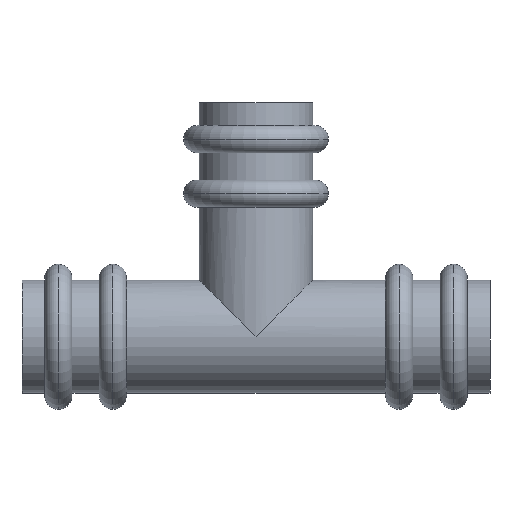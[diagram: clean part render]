
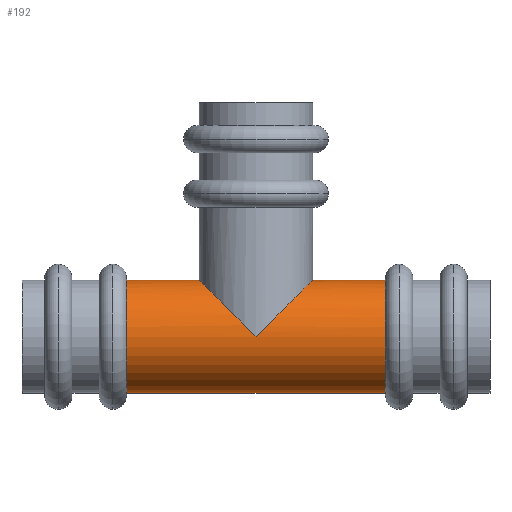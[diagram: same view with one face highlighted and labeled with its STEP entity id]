
A CAD part, front view. The second image highlights one B-rep face of the part: STEP entity #192.
In plain terms, the highlighted cylindrical face has radius 12.45 mm (diameter 24.9 mm), a partial arc.
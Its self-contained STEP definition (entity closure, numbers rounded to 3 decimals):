
#192=ADVANCED_FACE('',(#472),#473,.T.);
#472=FACE_OUTER_BOUND('',#864,.T.);
#473=CYLINDRICAL_SURFACE('',#865,12.45);
#864=EDGE_LOOP('',(#1370,#1371,#1372,#1373,#1374,#1375,#1376));
#865=AXIS2_PLACEMENT_3D('',#1377,#1378,#1379);
#1370=ORIENTED_EDGE('',*,*,#2243,.F.);
#1371=ORIENTED_EDGE('',*,*,#2244,.F.);
#1372=ORIENTED_EDGE('',*,*,#2245,.F.);
#1373=ORIENTED_EDGE('',*,*,#2246,.T.);
#1374=ORIENTED_EDGE('',*,*,#2247,.T.);
#1375=ORIENTED_EDGE('',*,*,#2248,.F.);
#1376=ORIENTED_EDGE('',*,*,#2249,.F.);
#1377=CARTESIAN_POINT('',(43.,0.0,0.));
#1378=DIRECTION('',(-1.0,0.0,0.0));
#1379=DIRECTION('',(0.0,0.0,-1.0));
#2243=EDGE_CURVE('',#2657,#2658,#2659,.T.);
#2244=EDGE_CURVE('',#2660,#2657,#2661,.T.);
#2245=EDGE_CURVE('',#2662,#2660,#2663,.T.);
#2246=EDGE_CURVE('',#2662,#2664,#2665,.T.);
#2247=EDGE_CURVE('',#2664,#2666,#2667,.T.);
#2248=EDGE_CURVE('',#2668,#2666,#2669,.T.);
#2249=EDGE_CURVE('',#2658,#2668,#2670,.T.);
#2657=VERTEX_POINT('',#3175);
#2658=VERTEX_POINT('',#3176);
#2659=LINE('',#3177,#3178);
#2660=VERTEX_POINT('',#3179);
#2661=CIRCLE('',#3180,12.45);
#2662=VERTEX_POINT('',#3181);
#2663=LINE('',#3182,#3183);
#2664=VERTEX_POINT('',#3184);
#2665=ELLIPSE('',#3185,17.607,12.45);
#2666=VERTEX_POINT('',#3186);
#2667=ELLIPSE('',#3187,17.607,12.45);
#2668=VERTEX_POINT('',#3188);
#2669=LINE('',#3189,#3190);
#2670=CIRCLE('',#3191,12.45);
#3175=CARTESIAN_POINT('',(80.,0.,-12.45));
#3176=CARTESIAN_POINT('',(23.,0.,-12.45));
#3177=CARTESIAN_POINT('',(43.,0.,-12.45));
#3178=VECTOR('',#3810,1.0);
#3179=CARTESIAN_POINT('',(80.,0.,12.45));
#3180=AXIS2_PLACEMENT_3D('',#3811,#3812,#3813);
#3181=CARTESIAN_POINT('',(63.95,0.,12.45));
#3182=CARTESIAN_POINT('',(43.,0.,12.45));
#3183=VECTOR('',#3814,1.0);
#3184=CARTESIAN_POINT('',(51.5,-12.45,0.0));
#3185=AXIS2_PLACEMENT_3D('',#3815,#3816,#3817);
#3186=CARTESIAN_POINT('',(39.05,0.,12.45));
#3187=AXIS2_PLACEMENT_3D('',#3818,#3819,#3820);
#3188=CARTESIAN_POINT('',(23.,0.,12.45));
#3189=CARTESIAN_POINT('',(43.,0.,12.45));
#3190=VECTOR('',#3821,1.0);
#3191=AXIS2_PLACEMENT_3D('',#3822,#3823,#3824);
#3810=DIRECTION('',(-1.0,0.0,0.0));
#3811=CARTESIAN_POINT('',(80.,0.0,0.));
#3812=DIRECTION('',(1.0,0.0,-0.0));
#3813=DIRECTION('',(0.0,0.0,1.0));
#3814=DIRECTION('',(1.0,-0.0,-0.0));
#3815=CARTESIAN_POINT('',(51.5,0.0,0.));
#3816=DIRECTION('',(0.707,0.0,-0.707));
#3817=DIRECTION('',(0.707,0.0,0.707));
#3818=CARTESIAN_POINT('',(51.5,0.0,0.));
#3819=DIRECTION('',(-0.707,-0.0,-0.707));
#3820=DIRECTION('',(0.707,0.0,-0.707));
#3821=DIRECTION('',(1.0,-0.0,-0.0));
#3822=CARTESIAN_POINT('',(23.,0.0,0.));
#3823=DIRECTION('',(-1.0,0.0,0.));
#3824=DIRECTION('',(0.,0.0,-1.0));
